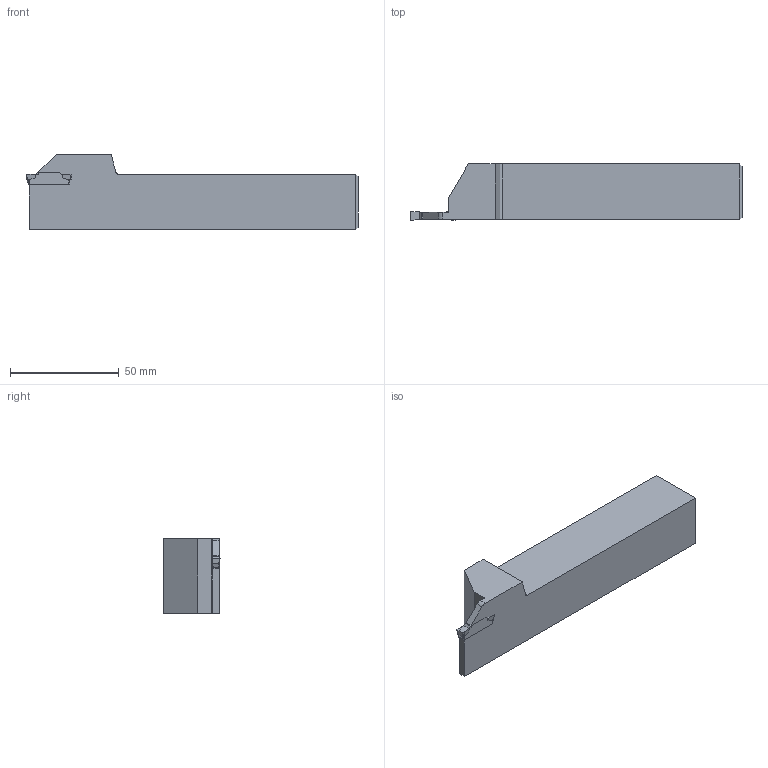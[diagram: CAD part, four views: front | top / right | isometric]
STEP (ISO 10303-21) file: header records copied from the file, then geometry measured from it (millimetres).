
FILE_DESCRIPTION(/* description */ (''),/* implementation_level */ '2;1');
FILE_NAME(/* name */ 'MGEHR16-4-HAAS_20200625.stp',/* time_stamp */ '2020-11-18T17:08:50+09:00',/* author */ (''),/* organization */ (''),/* preprocessor_version */ 'ST-DEVELOPER v11',/* originating_system */ 'SIEMENS UGS NX 6.0',/* authorisation */ '');
FILE_SCHEMA (('CONFIG_CONTROL_DESIGN'));
Length unit declared in the file: millimetre
Products named in the file (1): user1992zaaz
Bounding box: 152.4 x 25.8 x 34.4 mm (x, y, z)
Volume: 91452.3 mm3; surface area: 16783.6 mm2
Topology: 2 solids, 2 shells, 55 faces, 145 edges, 94 vertices
Faces by surface type: plane 40, cylinder 15
Entity records: 1785 total; most frequent: CARTESIAN_POINT 319, ORIENTED_EDGE 290, DIRECTION 283, EDGE_CURVE 145, LINE 111, VECTOR 111, VERTEX_POINT 94, AXIS2_PLACEMENT_3D 86
